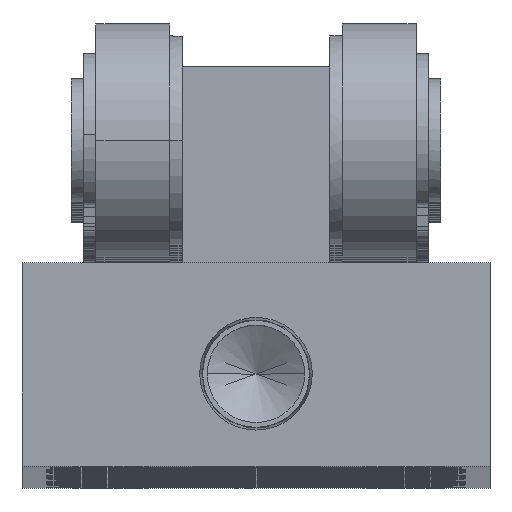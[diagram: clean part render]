
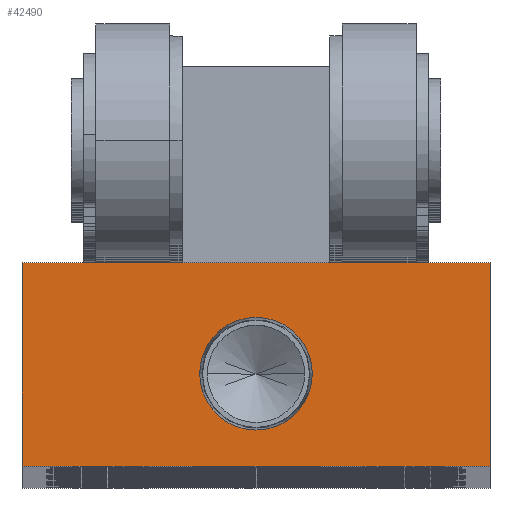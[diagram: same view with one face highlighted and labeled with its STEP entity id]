
A CAD part, top view. The second image highlights one B-rep face of the part: STEP entity #42490.
In plain terms, the highlighted planar face has unit normal (0, 0, 1).
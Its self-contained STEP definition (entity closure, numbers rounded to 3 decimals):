
#741 = EDGE_LOOP ( 'NONE', ( #17229, #32959 ) ) ;
#1149 = LINE ( 'NONE', #9091, #34996 ) ;
#1451 = ORIENTED_EDGE ( 'NONE', *, *, #17793, .T. ) ;
#2206 = DIRECTION ( 'NONE',  ( 0., 0., 1. ) ) ;
#2695 = VERTEX_POINT ( 'NONE', #33781 ) ;
#3932 = ORIENTED_EDGE ( 'NONE', *, *, #17649, .T. ) ;
#4740 = EDGE_LOOP ( 'NONE', ( #1451, #9396, #3932, #19864 ) ) ;
#4936 = EDGE_CURVE ( 'NONE', #10909, #32932, #10158, .T. ) ;
#5490 = VECTOR ( 'NONE', #14030, 1000. ) ;
#6798 = AXIS2_PLACEMENT_3D ( 'NONE', #31581, #28430, #8762 ) ;
#8762 = DIRECTION ( 'NONE',  ( -1., 0., 0. ) ) ;
#9091 = CARTESIAN_POINT ( 'NONE',  ( -19., 0., 0. ) ) ;
#9396 = ORIENTED_EDGE ( 'NONE', *, *, #36794, .T. ) ;
#9924 = DIRECTION ( 'NONE',  ( 0., -1., 0. ) ) ;
#10158 = CIRCLE ( 'NONE', #29582, 4.574 ) ;
#10909 = VERTEX_POINT ( 'NONE', #41509 ) ;
#11196 = VECTOR ( 'NONE', #31673, 1000. ) ;
#11289 = FACE_BOUND ( 'NONE', #741, .T. ) ;
#12025 = CARTESIAN_POINT ( 'NONE',  ( -19., 16.5, 0. ) ) ;
#14030 = DIRECTION ( 'NONE',  ( 0., 1., 0. ) ) ;
#14240 = AXIS2_PLACEMENT_3D ( 'NONE', #21813, #2206, #25073 ) ;
#14875 = CARTESIAN_POINT ( 'NONE',  ( -19., 0., 0. ) ) ;
#15240 = LINE ( 'NONE', #33681, #5490 ) ;
#15373 = CARTESIAN_POINT ( 'NONE',  ( 19., 16.5, 0. ) ) ;
#16142 = VERTEX_POINT ( 'NONE', #14875 ) ;
#17229 = ORIENTED_EDGE ( 'NONE', *, *, #4936, .F. ) ;
#17406 = EDGE_CURVE ( 'NONE', #32932, #10909, #26518, .T. ) ;
#17649 = EDGE_CURVE ( 'NONE', #2695, #16142, #27007, .T. ) ;
#17793 = EDGE_CURVE ( 'NONE', #28037, #24074, #15240, .T. ) ;
#17977 = CARTESIAN_POINT ( 'NONE',  ( 0., 7.5, 0. ) ) ;
#18750 = DIRECTION ( 'NONE',  ( 0., 0., 1. ) ) ;
#19005 = FACE_OUTER_BOUND ( 'NONE', #4740, .T. ) ;
#19864 = ORIENTED_EDGE ( 'NONE', *, *, #20903, .T. ) ;
#19926 = LINE ( 'NONE', #12025, #11196 ) ;
#20903 = EDGE_CURVE ( 'NONE', #16142, #28037, #1149, .T. ) ;
#21813 = CARTESIAN_POINT ( 'NONE',  ( 0., 7.5, 0. ) ) ;
#24074 = VERTEX_POINT ( 'NONE', #15373 ) ;
#25073 = DIRECTION ( 'NONE',  ( 1., 0., 0. ) ) ;
#25320 = CARTESIAN_POINT ( 'NONE',  ( -4.574, 7.5, 0. ) ) ;
#26518 = CIRCLE ( 'NONE', #14240, 4.574 ) ;
#27007 = LINE ( 'NONE', #32842, #35769 ) ;
#28037 = VERTEX_POINT ( 'NONE', #30755 ) ;
#28430 = DIRECTION ( 'NONE',  ( 0., 0., -1. ) ) ;
#29582 = AXIS2_PLACEMENT_3D ( 'NONE', #17977, #18750, #41673 ) ;
#30755 = CARTESIAN_POINT ( 'NONE',  ( 19., 0., 0. ) ) ;
#31581 = CARTESIAN_POINT ( 'NONE',  ( 0., 0., 0. ) ) ;
#31673 = DIRECTION ( 'NONE',  ( -1., 0., 0. ) ) ;
#32842 = CARTESIAN_POINT ( 'NONE',  ( -19., 0., 0. ) ) ;
#32932 = VERTEX_POINT ( 'NONE', #25320 ) ;
#32959 = ORIENTED_EDGE ( 'NONE', *, *, #17406, .F. ) ;
#33681 = CARTESIAN_POINT ( 'NONE',  ( 19., 0., 0. ) ) ;
#33781 = CARTESIAN_POINT ( 'NONE',  ( -19., 16.5, 0. ) ) ;
#34996 = VECTOR ( 'NONE', #38579, 1000. ) ;
#35769 = VECTOR ( 'NONE', #9924, 1000. ) ;
#36794 = EDGE_CURVE ( 'NONE', #24074, #2695, #19926, .T. ) ;
#38579 = DIRECTION ( 'NONE',  ( 1., 0., 0. ) ) ;
#41449 = PLANE ( 'NONE',  #6798 ) ;
#41509 = CARTESIAN_POINT ( 'NONE',  ( 4.574, 7.5, 0. ) ) ;
#41673 = DIRECTION ( 'NONE',  ( 1., 0., 0. ) ) ;
#42490 = ADVANCED_FACE ( 'NONE', ( #11289, #19005 ), #41449, .F. ) ;
